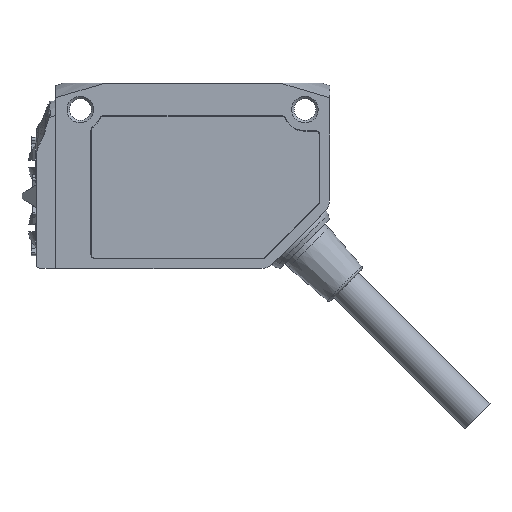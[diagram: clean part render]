
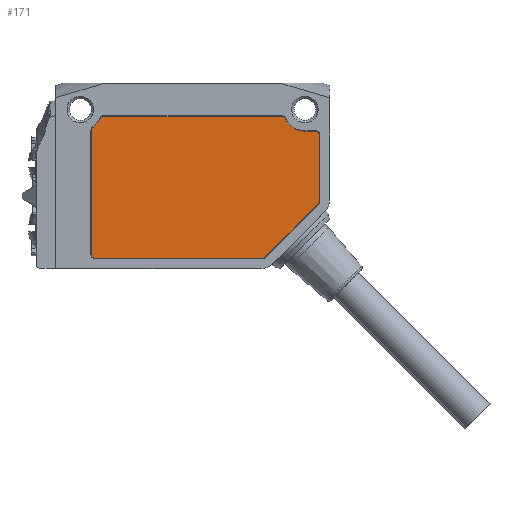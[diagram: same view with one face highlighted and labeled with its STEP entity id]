
A CAD part, left-side view. The second image highlights one B-rep face of the part: STEP entity #171.
In plain terms, the highlighted planar face has unit normal (-1, 0, 0).
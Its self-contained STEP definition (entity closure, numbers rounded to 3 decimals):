
#171 = ADVANCED_FACE( '', ( #463 ), #464, .F. );
#463 = FACE_OUTER_BOUND( '', #843, .T. );
#464 = PLANE( '', #844 );
#843 = EDGE_LOOP( '', ( #1765, #1766, #1767, #1768, #1769, #1770, #1771, #1772, #1773, #1774, #1775, #1776, #1777, #1778, #1779 ) );
#844 = AXIS2_PLACEMENT_3D( '', #1780, #1781, #1782 );
#1765 = ORIENTED_EDGE( '', *, *, #2641, .T. );
#1766 = ORIENTED_EDGE( '', *, *, #2642, .T. );
#1767 = ORIENTED_EDGE( '', *, *, #2643, .T. );
#1768 = ORIENTED_EDGE( '', *, *, #2644, .F. );
#1769 = ORIENTED_EDGE( '', *, *, #2645, .T. );
#1770 = ORIENTED_EDGE( '', *, *, #2646, .T. );
#1771 = ORIENTED_EDGE( '', *, *, #2647, .T. );
#1772 = ORIENTED_EDGE( '', *, *, #2648, .T. );
#1773 = ORIENTED_EDGE( '', *, *, #2649, .T. );
#1774 = ORIENTED_EDGE( '', *, *, #2650, .T. );
#1775 = ORIENTED_EDGE( '', *, *, #2651, .T. );
#1776 = ORIENTED_EDGE( '', *, *, #2652, .T. );
#1777 = ORIENTED_EDGE( '', *, *, #2653, .T. );
#1778 = ORIENTED_EDGE( '', *, *, #2654, .T. );
#1779 = ORIENTED_EDGE( '', *, *, #2655, .F. );
#1780 = CARTESIAN_POINT( '', ( -6.5, -1.5, 4.328 ) );
#1781 = DIRECTION( '', ( 1., 0., 0. ) );
#1782 = DIRECTION( '', ( 0., 0., -1. ) );
#2641 = EDGE_CURVE( '', #3254, #3255, #3256, .F. );
#2642 = EDGE_CURVE( '', #3255, #3257, #3258, .T. );
#2643 = EDGE_CURVE( '', #3257, #3259, #3260, .F. );
#2644 = EDGE_CURVE( '', #3261, #3259, #3262, .F. );
#2645 = EDGE_CURVE( '', #3261, #3263, #3264, .F. );
#2646 = EDGE_CURVE( '', #3263, #3265, #3266, .T. );
#2647 = EDGE_CURVE( '', #3265, #3267, #3268, .F. );
#2648 = EDGE_CURVE( '', #3267, #3269, #3270, .T. );
#2649 = EDGE_CURVE( '', #3269, #3271, #3272, .F. );
#2650 = EDGE_CURVE( '', #3271, #3273, #3274, .T. );
#2651 = EDGE_CURVE( '', #3273, #3275, #3276, .F. );
#2652 = EDGE_CURVE( '', #3275, #3277, #3278, .T. );
#2653 = EDGE_CURVE( '', #3277, #3279, #3280, .F. );
#2654 = EDGE_CURVE( '', #3279, #3281, #3282, .T. );
#2655 = EDGE_CURVE( '', #3254, #3281, #3283, .F. );
#3254 = VERTEX_POINT( '', #4152 );
#3255 = VERTEX_POINT( '', #4153 );
#3256 = CIRCLE( '', #4154, 0.45 );
#3257 = VERTEX_POINT( '', #4155 );
#3258 = LINE( '', #4156, #4157 );
#3259 = VERTEX_POINT( '', #4158 );
#3260 = CIRCLE( '', #4159, 0.45 );
#3261 = VERTEX_POINT( '', #4160 );
#3262 = CIRCLE( '', #4161, 2.45 );
#3263 = VERTEX_POINT( '', #4162 );
#3264 = CIRCLE( '', #4163, 0.45 );
#3265 = VERTEX_POINT( '', #4164 );
#3266 = LINE( '', #4165, #4166 );
#3267 = VERTEX_POINT( '', #4167 );
#3268 = CIRCLE( '', #4168, 0.45 );
#3269 = VERTEX_POINT( '', #4169 );
#3270 = LINE( '', #4170, #4171 );
#3271 = VERTEX_POINT( '', #4172 );
#3272 = CIRCLE( '', #4173, 0.45 );
#3273 = VERTEX_POINT( '', #4174 );
#3274 = LINE( '', #4175, #4176 );
#3275 = VERTEX_POINT( '', #4177 );
#3276 = CIRCLE( '', #4178, 0.45 );
#3277 = VERTEX_POINT( '', #4179 );
#3278 = LINE( '', #4180, #4181 );
#3279 = VERTEX_POINT( '', #4182 );
#3280 = CIRCLE( '', #4183, 0.45 );
#3281 = VERTEX_POINT( '', #4184 );
#3282 = LINE( '', #4185, #4186 );
#3283 = CIRCLE( '', #4187, 2.45 );
#4152 = CARTESIAN_POINT( '', ( -6.5, 1.53, 13.486 ) );
#4153 = CARTESIAN_POINT( '', ( -6.5, 1.94, 13.75 ) );
#4154 = AXIS2_PLACEMENT_3D( '', #4996, #4997, #4998 );
#4155 = CARTESIAN_POINT( '', ( -6.5, 22.06, 13.75 ) );
#4156 = CARTESIAN_POINT( '', ( -6.5, -1.5, 13.75 ) );
#4157 = VECTOR( '', #4999, 1000. );
#4158 = CARTESIAN_POINT( '', ( -6.5, 22.47, 13.486 ) );
#4159 = AXIS2_PLACEMENT_3D( '', #5000, #5001, #5002 );
#4160 = CARTESIAN_POINT( '', ( -6.5, 23.264, 12.515 ) );
#4161 = AXIS2_PLACEMENT_3D( '', #5003, #5004, #5005 );
#4162 = CARTESIAN_POINT( '', ( -6.5, 23.45, 12.151 ) );
#4163 = AXIS2_PLACEMENT_3D( '', #5006, #5007, #5008 );
#4164 = CARTESIAN_POINT( '', ( -6.5, 23.45, -1.9 ) );
#4165 = CARTESIAN_POINT( '', ( -6.5, 23.45, 4.328 ) );
#4166 = VECTOR( '', #5009, 1000. );
#4167 = CARTESIAN_POINT( '', ( -6.5, 23., -2.35 ) );
#4168 = AXIS2_PLACEMENT_3D( '', #5010, #5011, #5012 );
#4169 = CARTESIAN_POINT( '', ( -6.5, 4.163, -2.35 ) );
#4170 = CARTESIAN_POINT( '', ( -6.5, -1.5, -2.35 ) );
#4171 = VECTOR( '', #5013, 1000. );
#4172 = CARTESIAN_POINT( '', ( -6.5, 3.845, -2.218 ) );
#4173 = AXIS2_PLACEMENT_3D( '', #5014, #5015, #5016 );
#4174 = CARTESIAN_POINT( '', ( -6.5, -2.218, 3.845 ) );
#4175 = CARTESIAN_POINT( '', ( -6.5, -2.101, 3.727 ) );
#4176 = VECTOR( '', #5017, 1000. );
#4177 = CARTESIAN_POINT( '', ( -6.5, -2.35, 4.163 ) );
#4178 = AXIS2_PLACEMENT_3D( '', #5018, #5019, #5020 );
#4179 = CARTESIAN_POINT( '', ( -6.5, -2.35, 11.6 ) );
#4180 = CARTESIAN_POINT( '', ( -6.5, -2.35, 4.328 ) );
#4181 = VECTOR( '', #5021, 1000. );
#4182 = CARTESIAN_POINT( '', ( -6.5, -1.9, 12.05 ) );
#4183 = AXIS2_PLACEMENT_3D( '', #5022, #5023, #5024 );
#4184 = CARTESIAN_POINT( '', ( -6.5, -0.7, 12.05 ) );
#4185 = CARTESIAN_POINT( '', ( -6.5, -1.5, 12.05 ) );
#4186 = VECTOR( '', #5025, 1000. );
#4187 = AXIS2_PLACEMENT_3D( '', #5026, #5027, #5028 );
#4996 = CARTESIAN_POINT( '', ( -6.5, 1.94, 13.3 ) );
#4997 = DIRECTION( '', ( 1., 0., 0. ) );
#4998 = DIRECTION( '', ( 0., 0., -1. ) );
#4999 = DIRECTION( '', ( 0., 1., 0. ) );
#5000 = CARTESIAN_POINT( '', ( -6.5, 22.06, 13.3 ) );
#5001 = DIRECTION( '', ( 1., 0., 0. ) );
#5002 = DIRECTION( '', ( 0., 0., -1. ) );
#5003 = CARTESIAN_POINT( '', ( -6.5, 24.7, 14.5 ) );
#5004 = DIRECTION( '', ( 1., 0., 0. ) );
#5005 = DIRECTION( '', ( 0., 0., -1. ) );
#5006 = CARTESIAN_POINT( '', ( -6.5, 23., 12.151 ) );
#5007 = DIRECTION( '', ( 1., 0., 0. ) );
#5008 = DIRECTION( '', ( 0., 0., -1. ) );
#5009 = DIRECTION( '', ( 0., 0., -1. ) );
#5010 = CARTESIAN_POINT( '', ( -6.5, 23., -1.9 ) );
#5011 = DIRECTION( '', ( 1., 0., 0. ) );
#5012 = DIRECTION( '', ( 0., 0., -1. ) );
#5013 = DIRECTION( '', ( 0., -1., 0. ) );
#5014 = CARTESIAN_POINT( '', ( -6.5, 4.163, -1.9 ) );
#5015 = DIRECTION( '', ( 1., 0., 0. ) );
#5016 = DIRECTION( '', ( 0., 0., -1. ) );
#5017 = DIRECTION( '', ( 0., -0.707, 0.707 ) );
#5018 = CARTESIAN_POINT( '', ( -6.5, -1.9, 4.163 ) );
#5019 = DIRECTION( '', ( 1., 0., 0. ) );
#5020 = DIRECTION( '', ( 0., 0., -1. ) );
#5021 = DIRECTION( '', ( 0., 0., 1. ) );
#5022 = CARTESIAN_POINT( '', ( -6.5, -1.9, 11.6 ) );
#5023 = DIRECTION( '', ( 1., 0., 0. ) );
#5024 = DIRECTION( '', ( 0., 0., -1. ) );
#5025 = DIRECTION( '', ( 0., 1., 0. ) );
#5026 = CARTESIAN_POINT( '', ( -6.5, -0.7, 14.5 ) );
#5027 = DIRECTION( '', ( 1., 0., 0. ) );
#5028 = DIRECTION( '', ( 0., 0., -1. ) );
